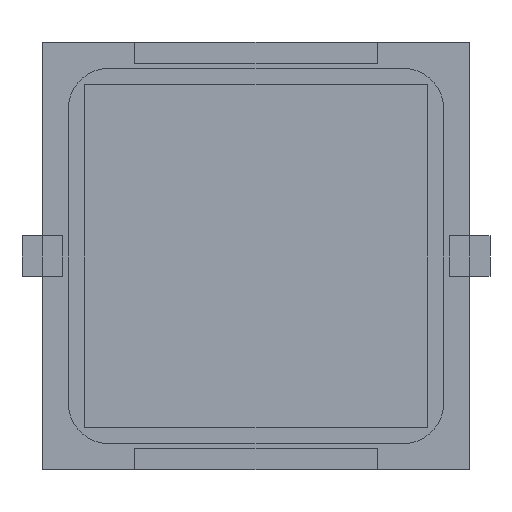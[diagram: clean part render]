
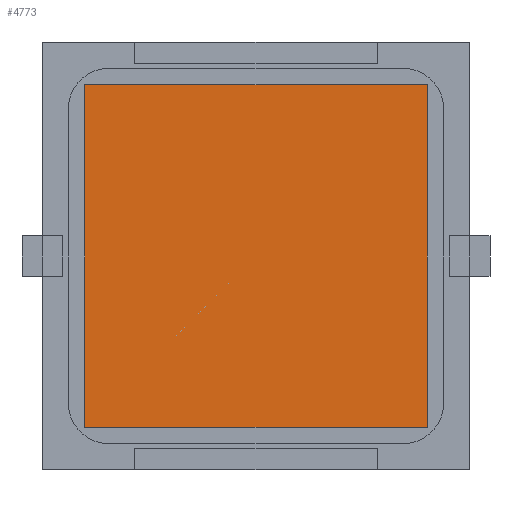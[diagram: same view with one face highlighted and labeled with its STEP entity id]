
A CAD part, front view. The second image highlights one B-rep face of the part: STEP entity #4773.
In plain terms, the highlighted planar face has unit normal (0, -1, 0).
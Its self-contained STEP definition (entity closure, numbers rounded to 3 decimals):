
#17 = ORIENTED_EDGE ( 'NONE', *, *, #1268, .F. ) ;
#103 = DIRECTION ( 'NONE',  ( 1., 0., 0. ) ) ;
#132 = CARTESIAN_POINT ( 'NONE',  ( -8.5, -0.127, 8.5 ) ) ;
#332 = FACE_OUTER_BOUND ( 'NONE', #2942, .T. ) ;
#373 = ORIENTED_EDGE ( 'NONE', *, *, #952, .F. ) ;
#859 = EDGE_CURVE ( 'NONE', #3670, #1323, #4583, .T. ) ;
#918 = DIRECTION ( 'NONE',  ( -1., 0., 0. ) ) ;
#952 = EDGE_CURVE ( 'NONE', #4814, #1939, #5147, .T. ) ;
#1017 = CARTESIAN_POINT ( 'NONE',  ( -8.5, -0.127, -8.5 ) ) ;
#1106 = PLANE ( 'NONE',  #5647 ) ;
#1268 = EDGE_CURVE ( 'NONE', #1323, #4814, #3760, .T. ) ;
#1323 = VERTEX_POINT ( 'NONE', #5174 ) ;
#1925 = VECTOR ( 'NONE', #3976, 1000. ) ;
#1939 = VERTEX_POINT ( 'NONE', #5427 ) ;
#2199 = CARTESIAN_POINT ( 'NONE',  ( -8.5, -0.127, -8.5 ) ) ;
#2738 = CARTESIAN_POINT ( 'NONE',  ( -8.5, -0.127, -8.5 ) ) ;
#2942 = EDGE_LOOP ( 'NONE', ( #5314, #5715, #373, #17 ) ) ;
#3189 = LINE ( 'NONE', #2738, #4281 ) ;
#3594 = VECTOR ( 'NONE', #5576, 1000. ) ;
#3670 = VERTEX_POINT ( 'NONE', #1017 ) ;
#3712 = CARTESIAN_POINT ( 'NONE',  ( 8.5, -0.127, 8.5 ) ) ;
#3760 = LINE ( 'NONE', #4169, #4556 ) ;
#3976 = DIRECTION ( 'NONE',  ( 0., 0., 1. ) ) ;
#4068 = EDGE_CURVE ( 'NONE', #1939, #3670, #3189, .T. ) ;
#4169 = CARTESIAN_POINT ( 'NONE',  ( -8.5, -0.127, 8.5 ) ) ;
#4281 = VECTOR ( 'NONE', #918, 1000. ) ;
#4342 = DIRECTION ( 'NONE',  ( 0., 1., 0. ) ) ;
#4556 = VECTOR ( 'NONE', #103, 1000. ) ;
#4583 = LINE ( 'NONE', #2199, #1925 ) ;
#4674 = CARTESIAN_POINT ( 'NONE',  ( 8.5, -0.127, -8.5 ) ) ;
#4773 = ADVANCED_FACE ( 'NONE', ( #332 ), #1106, .F. ) ;
#4814 = VERTEX_POINT ( 'NONE', #3712 ) ;
#5147 = LINE ( 'NONE', #4674, #3594 ) ;
#5174 = CARTESIAN_POINT ( 'NONE',  ( -8.5, -0.127, 8.5 ) ) ;
#5278 = DIRECTION ( 'NONE',  ( 0., 0., 1. ) ) ;
#5314 = ORIENTED_EDGE ( 'NONE', *, *, #859, .F. ) ;
#5427 = CARTESIAN_POINT ( 'NONE',  ( 8.5, -0.127, -8.5 ) ) ;
#5576 = DIRECTION ( 'NONE',  ( 0., 0., -1. ) ) ;
#5647 = AXIS2_PLACEMENT_3D ( 'NONE', #132, #4342, #5278 ) ;
#5715 = ORIENTED_EDGE ( 'NONE', *, *, #4068, .F. ) ;
